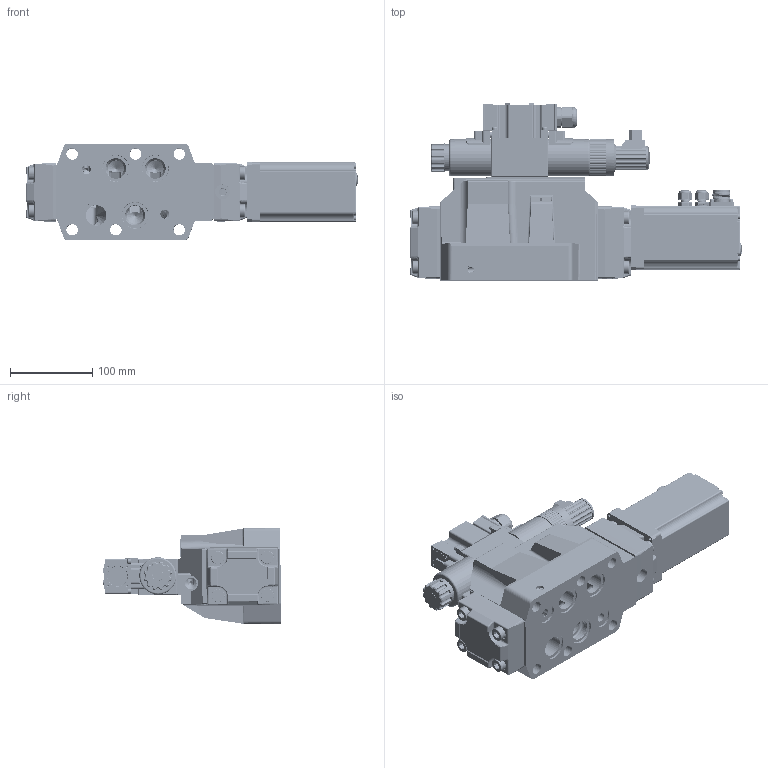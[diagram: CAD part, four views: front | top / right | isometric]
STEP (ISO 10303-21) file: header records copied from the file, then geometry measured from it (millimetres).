
FILE_DESCRIPTION(/* description */ (''),/* implementation_level */ '2;1');
FILE_NAME(/* name */ 'WRTE25-7XJ.stp',/* time_stamp */ '2024-10-22T14:30:46+08:00',/* author */ (''),/* organization */ (''),/* preprocessor_version */ 'ST-DEVELOPER v16.7',/* originating_system */ 'SIEMENS PLM Software NX 12.0',/* authorisation */ '');
FILE_SCHEMA (('AUTOMOTIVE_DESIGN { 1 0 10303 214 3 1 1 1 }'));
Products named in the file (1): 4WRTE25-4XJ
Bounding box: 402.98 x 216.1 x 117.36 mm (x, y, z)
Volume: 958435.6 mm3; surface area: 560242.1 mm2
Topology: 46 solids, 48 shells, 3651 faces, 9451 edges, 5972 vertices
Faces by surface type: cylinder 1454, plane 1382, bspline 287, cone 231, torus 182, sphere 101, extrusion 14
Full cylindrical faces by diameter (mm): 0.6 x2, 1.5 x11, 1.8 x6, 2 x6, 2.5 x18, 3 x12, 3.2 x61, 3.3 x4, 3.5 x1, 4 x33, 4.2 x37, 4.5 x4, 5 x162, 5.3 x4, 5.4 x4, 5.5 x9, 5.6 x8, 5.7 x2, 6 x21, 6.5 x1, 6.78 x4, 7 x18, 7.4 x1, 7.95 x1, 8 x5, 8.06 x1, 8.1 x2, 8.28 x4, 8.3 x1, 8.5 x97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
Entity records: 282121 total; most frequent: CARTESIAN_POINT 201386, ORIENTED_EDGE 14370, DIRECTION 14196, EDGE_CURVE 7185, AXIS2_PLACEMENT_3D 5557, VERTEX_POINT 4899, EDGE_LOOP 4248, ADVANCED_FACE 3247
